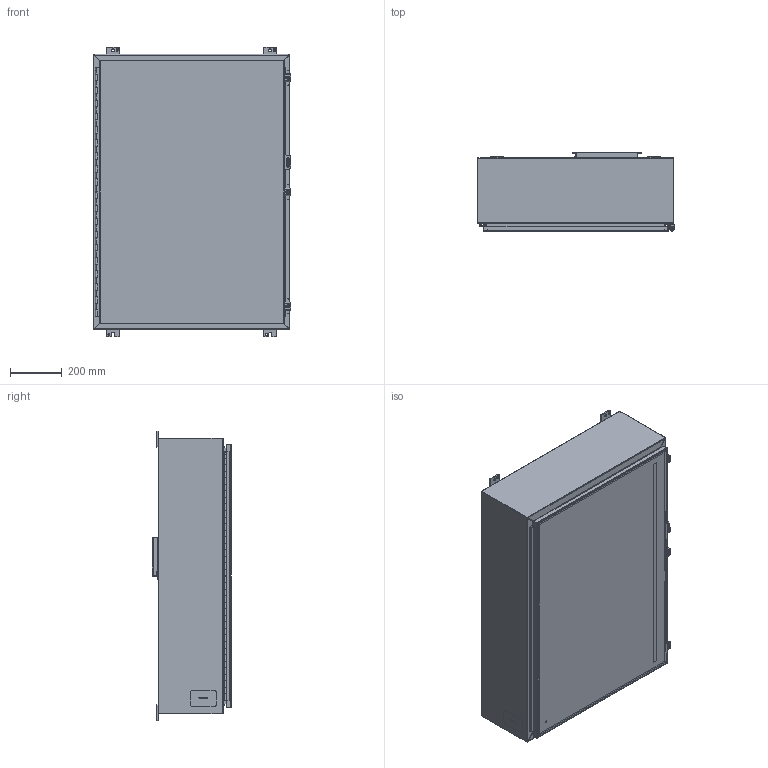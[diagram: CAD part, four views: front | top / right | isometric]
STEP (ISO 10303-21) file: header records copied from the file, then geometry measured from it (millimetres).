
FILE_DESCRIPTION(/* description */ ('Unknown'),/* implementation_level */ '2;1');
FILE_NAME(/* name */ '1418O10LP',/* time_stamp */ '2026-02-20T16:35:29-05:00',/* author */ ('Unknown'),/* organization */ ('Unknown'),/* preprocessor_version */ 'ST-DEVELOPER v18.104',/* originating_system */ 'Solid Edge',/* authorisation */ 'Unknown');
FILE_SCHEMA (('AUTOMOTIVE_DESIGN {1 0 10303 214 3 1 1}'));
Length unit declared in the file: millimetre
Products named in the file (32): 1418O10LP; KIT90256; LAB30005; NTS165305; NTS16535; STD26094; STD21878; COM42780; COM40153-1; COM71782-2; COM40153-2; PNT11078; COM70219_oa_0; HNG10620-38C; COM53845-2; COM48493; FET07710; KIT90519; WAF25059; NTS166105; AKT90223; SPR20265; SCC19011; WAF25035; COM42667; BUL10020; QLB30109; PKT99; HNG10620-38B; HNG10620-38P; QLB20254
Assembly tree (45 placements, depth 3):
  1418O10LP
    KIT90256
      LAB30005
      NTS165305
      NTS16535
    STD26094  x6
    STD21878
    COM42780  x3
    COM40153-1
    COM71782-2
      COM40153-2
      PNT11078
      COM71782-2
      STD21878
      COM70219_oa_0
      HNG10620-38C
      COM53845-2
    COM48493
    FET07710  x4
    PNT11078
    KIT90519
      WAF25059
      NTS166105
    AKT90223  x3
      SPR20265
      SCC19011
      WAF25035
      COM42667
    BUL10020
    QLB30109
    PKT99
    HNG10620-38B
    HNG10620-38P
    QLB20254
Bounding box: 765.17 x 307.98 x 1123.95 mm (x, y, z)
Volume: 5583650 mm3; surface area: 6090255.3 mm2
Topology: 43 solids, 44 shells, 1562 faces, 4049 edges, 2632 vertices
Faces by surface type: plane 1026, cylinder 401, bspline 77, cone 28, torus 28, sphere 2
Full cylindrical faces by diameter (mm): 3.175 x1, 4.763 x1, 4.976 x1, 5.41 x3, 6.198 x3, 6.35 x3, 6.731 x3, 7.137 x2, 7.805 x1, 7.938 x4, 8.382 x6, 9.525 x6, 9.906 x3, 11.113 x4, 11.303 x1, 12.7 x3, 16.51 x6, 25.4 x1, 88.9 x1
Entity records: 38015 total; most frequent: CARTESIAN_POINT 10731, ORIENTED_EDGE 5590, DIRECTION 5120, EDGE_CURVE 2795, LINE 1828, VECTOR 1828, VERTEX_POINT 1825, AXIS2_PLACEMENT_3D 1646
